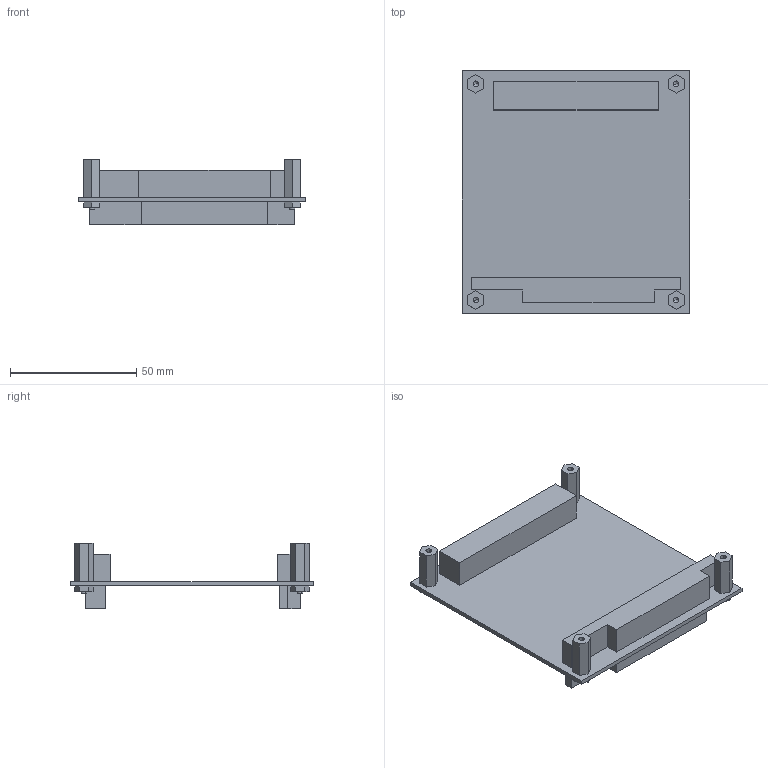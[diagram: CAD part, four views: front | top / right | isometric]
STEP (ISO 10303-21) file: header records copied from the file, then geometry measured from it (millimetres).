
FILE_DESCRIPTION (( 'STEP AP214' ), '1' );
FILE_NAME ('PC104P-SPACER.STEP', '2022-05-12T23:21:20', ( '' ), ( '' ), 'SwSTEP 2.0', 'SolidWorks 2021', '' );
FILE_SCHEMA (( 'AUTOMOTIVE_DESIGN' ));
Length unit declared in the file: inch
Products named in the file (1): PC104P-SPACER
Bounding box: 90.17 x 96.01 x 26.07 mm (x, y, z)
Volume: 43766.6 mm3; surface area: 30481.7 mm2
Topology: 11 solids, 11 shells, 136 faces, 316 edges, 204 vertices
Faces by surface type: plane 104, cylinder 24, cone 8
Entity records: 5702 total; most frequent: CARTESIAN_POINT 649, DIRECTION 630, ORIENTED_EDGE 616, EDGE_CURVE 308, LINE 260, VECTOR 260, VERTEX_POINT 204, AXIS2_PLACEMENT_3D 185
